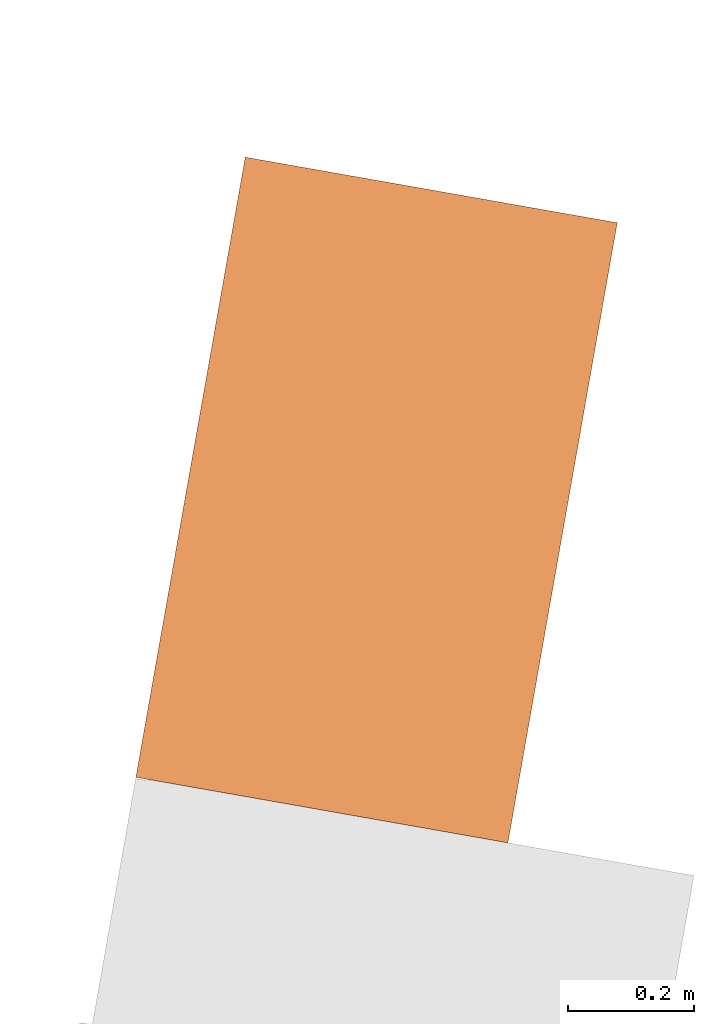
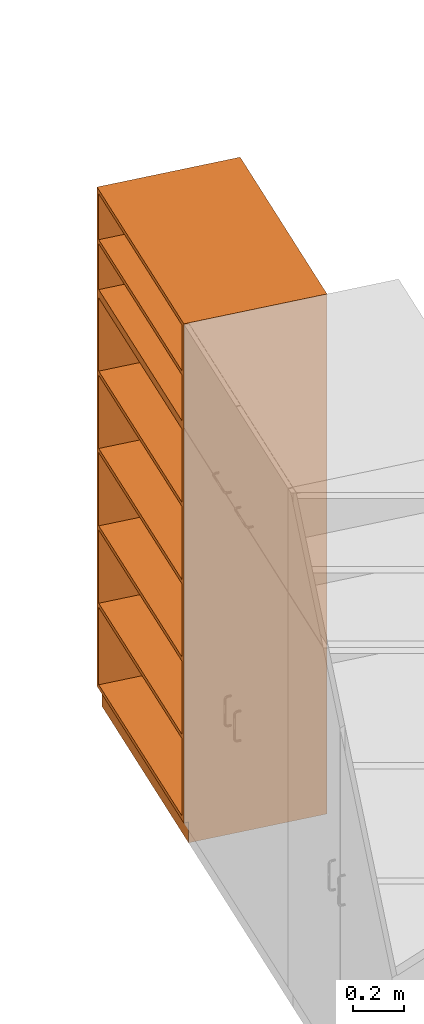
# One storey, part 30 of 32: 1 proxy.
"""IFC2X3 building model written with IfcOpenShell, lengths in metres."""

from ifc_helpers import new_model, entity, si_unit, converted_unit, derived_unit, direction, frame, origin, place, context, subcontext, project, spatial, faceted_brep, source, transform, mapped, material, material_list, type_object, type_shapes, element, save


model = new_model("IFC2X3")

# Units and contexts
model_context = context("Model", 3, precision=1e-05, world=origin(), true_north=direction((6.12303176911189e-17, 1.0)))
body_context = subcontext(model_context, "Body", "Model", "MODEL_VIEW")
ifc_project = project(units=[si_unit("LENGTHUNIT", "METRE"), si_unit("AREAUNIT", "SQUARE_METRE"), si_unit("VOLUMEUNIT", "CUBIC_METRE"), converted_unit("PLANEANGLEUNIT", "DEGREE", entity("IfcRatioMeasure", 0.0174532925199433), si_unit("PLANEANGLEUNIT", "RADIAN"), dimensions=[0, 0, 0, 0, 0, 0, 0]), si_unit("MASSUNIT", "GRAM", prefix="KILO"), derived_unit("MASSDENSITYUNIT", [(si_unit("MASSUNIT", "GRAM", prefix="KILO"), 1), (si_unit("LENGTHUNIT", "METRE"), -3)]), derived_unit("MOMENTOFINERTIAUNIT", [(si_unit("LENGTHUNIT", "METRE"), 4)]), si_unit("TIMEUNIT", "SECOND"), si_unit("FREQUENCYUNIT", "HERTZ"), si_unit("THERMODYNAMICTEMPERATUREUNIT", "DEGREE_CELSIUS"), derived_unit("THERMALTRANSMITTANCEUNIT", [(si_unit("MASSUNIT", "GRAM", prefix="KILO"), 1), (si_unit("THERMODYNAMICTEMPERATUREUNIT", "KELVIN"), -1), (si_unit("TIMEUNIT", "SECOND"), -3)]), derived_unit("VOLUMETRICFLOWRATEUNIT", [(si_unit("LENGTHUNIT", "METRE"), 3), (si_unit("TIMEUNIT", "SECOND"), -1)]), si_unit("ELECTRICCURRENTUNIT", "AMPERE"), si_unit("ELECTRICVOLTAGEUNIT", "VOLT"), si_unit("POWERUNIT", "WATT"), si_unit("FORCEUNIT", "NEWTON", prefix="KILO"), si_unit("ILLUMINANCEUNIT", "LUX"), si_unit("LUMINOUSFLUXUNIT", "LUMEN"), si_unit("LUMINOUSINTENSITYUNIT", "CANDELA"), derived_unit("USERDEFINED", [(si_unit("MASSUNIT", "GRAM", prefix="KILO"), -1), (si_unit("LENGTHUNIT", "METRE"), -2), (si_unit("TIMEUNIT", "SECOND"), 3), (si_unit("LUMINOUSFLUXUNIT", "LUMEN"), 1)]), derived_unit("LINEARVELOCITYUNIT", [(si_unit("LENGTHUNIT", "METRE"), 1), (si_unit("TIMEUNIT", "SECOND"), -1)]), si_unit("PRESSUREUNIT", "PASCAL"), derived_unit("USERDEFINED", [(si_unit("LENGTHUNIT", "METRE"), -2), (si_unit("MASSUNIT", "GRAM", prefix="KILO"), 1), (si_unit("TIMEUNIT", "SECOND"), -2)]), derived_unit("LINEARFORCEUNIT", [(si_unit("MASSUNIT", "GRAM", prefix="KILO"), 1), (si_unit("LENGTHUNIT", "METRE"), 1), (si_unit("TIMEUNIT", "SECOND"), -2), (si_unit("LENGTHUNIT", "METRE"), -1)]), derived_unit("PLANARFORCEUNIT", [(si_unit("MASSUNIT", "GRAM", prefix="KILO"), 1), (si_unit("LENGTHUNIT", "METRE"), 1), (si_unit("TIMEUNIT", "SECOND"), -2), (si_unit("LENGTHUNIT", "METRE"), -2)])], contexts=[model_context])

# Site, building, storey
site_placement = place(None, origin())
site = spatial("IfcSite", under=ifc_project, at=site_placement, Name="Default", CompositionType="ELEMENT")
building_placement = place(site_placement, origin())
building = spatial("IfcBuilding", under=site, at=building_placement, CompositionType="ELEMENT")
storey_placement = place(building_placement, origin())
storey = spatial("IfcBuildingStorey", under=building, at=storey_placement, Name="00 EG", CompositionType="ELEMENT", Elevation=0.0)

# Proxy
ifc_material_1 = material(Name="dh_Weiss")
ifc_material_2 = material(Name="dh_Grau")
ifc_material_list_1 = material_list([ifc_material_1, ifc_material_2])
ifc_material_list_2 = material_list([ifc_material_2, ifc_material_1])
building_element_proxy_type = type_object("IfcBuildingElementProxyType", Name="dh_Laborhochregal:1000x600x2000", PredefinedType="NOTDEFINED", material=ifc_material_list_2)
shared_shape = source(origin(), body_context, "Body", "Brep", [
    faceted_brep([(0.479999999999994, 0.279999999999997, 2.26), (-0.479999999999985, 0.279999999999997, 2.26), (-0.479999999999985, -0.3, 2.26), (0.479999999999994, -0.3, 2.26), (0.479999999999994, 0.279999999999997, 2.24), (0.479999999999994, -0.3, 2.24), (-0.479999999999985, -0.3, 2.24), (-0.479999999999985, 0.279999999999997, 2.24)], [[[0, 1, 2, 3]], [[4, 5, 6, 7]], [[1, 0, 4, 7]], [[2, 1, 7, 6]], [[3, 2, 6, 5]], [[0, 3, 5, 4]]]),
    faceted_brep([(0.5, -0.3, 2.5), (-0.5, -0.3, 2.5), (-0.5, -0.3, 2.0), (0.5, -0.3, 2.0), (-0.479999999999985, -0.3, 2.48), (0.479999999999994, -0.3, 2.48), (0.479999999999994, -0.3, 2.02), (-0.479999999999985, -0.3, 2.02), (0.5, 0.3, 2.0), (-0.5, 0.3, 2.0), (-0.5, 0.3, 2.5), (0.5, 0.3, 2.5), (0.479999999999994, 0.279999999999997, 2.02), (-0.479999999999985, 0.279999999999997, 2.02), (-0.479999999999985, 0.279999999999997, 2.48), (0.479999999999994, 0.279999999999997, 2.48)], [[[0, 1, 2, 3], [4, 5, 6, 7]], [[8, 9, 10, 11]], [[0, 3, 8, 11]], [[7, 6, 12, 13]], [[2, 1, 10, 9]], [[3, 2, 9, 8]], [[1, 0, 11, 10]], [[5, 4, 14, 15]], [[4, 7, 13, 14]], [[14, 13, 12, 15]], [[15, 12, 6, 5]]]),
    faceted_brep([(0.480000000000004, 0.279999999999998, 1.628), (-0.479999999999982, 0.279999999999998, 1.628), (-0.479999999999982, -0.3, 1.628), (0.480000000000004, -0.3, 1.628), (0.480000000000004, 0.279999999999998, 1.608), (0.480000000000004, -0.3, 1.608), (-0.479999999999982, -0.3, 1.608), (-0.479999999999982, 0.279999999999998, 1.608)], [[[0, 1, 2, 3]], [[4, 5, 6, 7]], [[1, 0, 4, 7]], [[2, 1, 7, 6]], [[3, 2, 6, 5]], [[0, 3, 5, 4]]]),
    faceted_brep([(0.480000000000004, 0.279999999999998, 1.256), (-0.479999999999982, 0.279999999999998, 1.256), (-0.479999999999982, -0.3, 1.256), (0.480000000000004, -0.3, 1.256), (0.480000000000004, 0.279999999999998, 1.236), (0.480000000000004, -0.3, 1.236), (-0.479999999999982, -0.3, 1.236), (-0.479999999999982, 0.279999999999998, 1.236)], [[[0, 1, 2, 3]], [[4, 5, 6, 7]], [[1, 0, 4, 7]], [[2, 1, 7, 6]], [[3, 2, 6, 5]], [[0, 3, 5, 4]]]),
    faceted_brep([(0.480000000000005, 0.279999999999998, 0.511999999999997), (-0.479999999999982, 0.279999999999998, 0.512), (-0.479999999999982, -0.3, 0.512), (0.480000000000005, -0.3, 0.511999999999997), (0.480000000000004, 0.279999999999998, 0.491999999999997), (0.480000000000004, -0.3, 0.491999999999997), (-0.479999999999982, -0.3, 0.492), (-0.479999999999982, 0.279999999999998, 0.492)], [[[0, 1, 2, 3]], [[4, 5, 6, 7]], [[1, 0, 4, 7]], [[2, 1, 7, 6]], [[3, 2, 6, 5]], [[0, 3, 5, 4]]]),
    faceted_brep([(0.480000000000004, 0.279999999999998, 0.883999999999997), (-0.479999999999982, 0.279999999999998, 0.884), (-0.479999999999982, -0.3, 0.884), (0.480000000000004, -0.3, 0.883999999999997), (0.480000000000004, 0.279999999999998, 0.863999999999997), (0.480000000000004, -0.3, 0.863999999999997), (-0.479999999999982, -0.3, 0.864), (-0.479999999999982, 0.279999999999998, 0.864)], [[[0, 1, 2, 3]], [[4, 5, 6, 7]], [[1, 0, 4, 7]], [[2, 1, 7, 6]], [[3, 2, 6, 5]], [[0, 3, 5, 4]]]),
    faceted_brep([(0.5, -0.3, 2.0), (-0.5, -0.3, 2.0), (-0.5, -0.3, 0.0999999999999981), (0.5, -0.3, 0.0999999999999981), (-0.479999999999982, -0.3, 1.98), (0.480000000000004, -0.3, 1.98), (0.480000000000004, -0.3, 0.12), (-0.479999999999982, -0.3, 0.12), (0.5, 0.3, 0.0999999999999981), (-0.5, 0.3, 0.0999999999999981), (-0.5, 0.3, 2.0), (0.5, 0.3, 2.0), (0.480000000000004, 0.279999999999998, 0.12), (-0.479999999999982, 0.279999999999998, 0.12), (-0.479999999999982, 0.279999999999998, 1.98), (0.480000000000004, 0.279999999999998, 1.98)], [[[0, 1, 2, 3], [4, 5, 6, 7]], [[8, 9, 10, 11]], [[0, 3, 8, 11]], [[7, 6, 12, 13]], [[2, 1, 10, 9]], [[3, 2, 9, 8]], [[1, 0, 11, 10]], [[5, 4, 14, 15]], [[4, 7, 13, 14]], [[14, 13, 12, 15]], [[15, 12, 6, 5]]]),
    faceted_brep([(0.5, 0.3, 0.0999999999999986), (-0.5, 0.3, 0.0999999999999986), (-0.5, -0.280000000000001, 0.0999999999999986), (0.5, -0.280000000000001, 0.0999999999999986), (0.5, 0.3, 0.0), (0.5, -0.280000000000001, 0.0), (-0.5, -0.280000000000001, 0.0), (-0.5, 0.3, 0.0)], [[[0, 1, 2, 3]], [[4, 5, 6, 7]], [[1, 0, 4, 7]], [[2, 1, 7, 6]], [[3, 2, 6, 5]], [[0, 3, 5, 4]]]),
])
type_shapes(building_element_proxy_type, [shared_shape])
proxy_placement = place(storey_placement, frame((30.3185413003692, 17.5487050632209, 0.0), z_axis=(0.0, 0.0, 1.0), x_axis=(-0.173648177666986, -0.984807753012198, 0.0)))
element("IfcBuildingElementProxy", 1, at=proxy_placement, inside=storey, type_object=building_element_proxy_type, material=ifc_material_list_1, Name="dh_Laborhochregal:1000x600x2000", ObjectType="dh_Laborhochregal:1000x600x2000", context=body_context, shape_type="MappedRepresentation", body=[
    mapped(shared_shape, transform((0.0, 0.0, 0.0), scale=1.0)),
])

save(model, "model.ifc")
